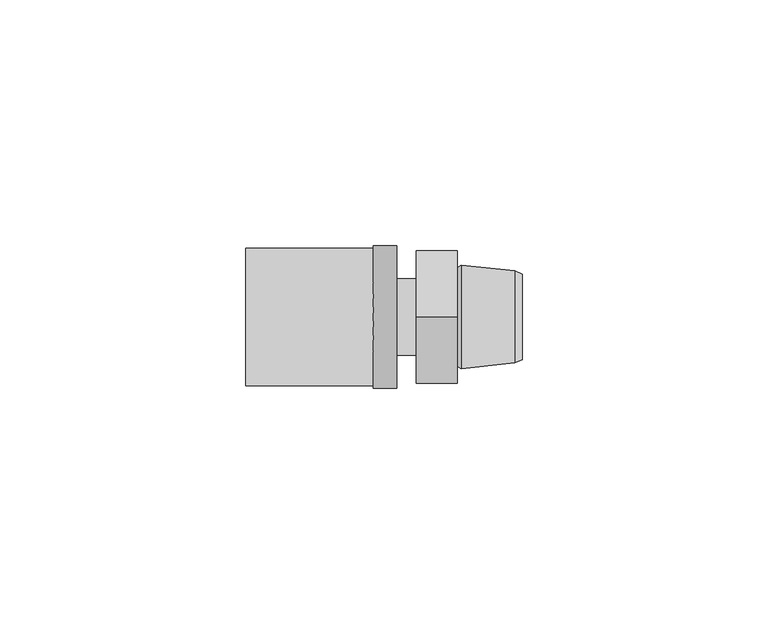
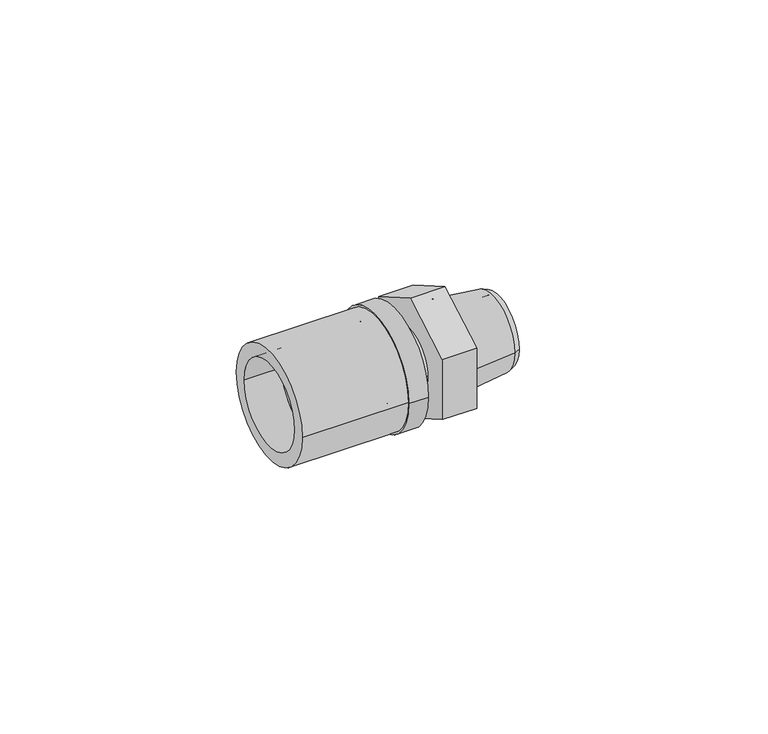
"""IFC4 building model written with IfcOpenShell, lengths in millimetres: pipe fitting geometry, FASTLOC_Adapter_RX+, with external thread : FSL A C external EX+ AT."""

from ifc_helpers import new_model, si_unit, point, frame, origin, origin_2d, place, context, project, spatial, polyline, circle_curve, trimmed, segment, composite_curve, outline, extrude, source, transform, mapped, element, save
from ifc_brep_helpers import plane_surface, cylinder_surface, revolved_surface, advanced_brep


def pipe_fitting_bbd05bdc(model_context):
    return source(origin(), model_context, "Body", "SolidModel", [
        extrude(outline(composite_curve([segment(trimmed(circle_curve(origin_2d(), 14.0), [point((14.0, 0.0))], [point((-14.0, 0.0))], False, "CARTESIAN"), True, "CONTINUOUS"), segment(trimmed(circle_curve(origin_2d(), 14.0), [point((-14.0, 0.0))], [point((14.0, 0.0))], False, "CARTESIAN"), True, "CONTINUOUS")], self_intersect=False), holes=[composite_curve([segment(trimmed(circle_curve(origin_2d(), 10.7), [point((10.7, 0.0))], [point((-10.7, 0.0))], True, "CARTESIAN"), True, "CONTINUOUS"), segment(trimmed(circle_curve(origin_2d(), 10.7), [point((-10.7, 0.0))], [point((10.7, 0.0))], True, "CARTESIAN"), True, "CONTINUOUS")], self_intersect=False)]), frame((-34.7, 0.0, 0.0), z_axis=(1.0, 0.0, 0.0), x_axis=(0.0, 1.0, 0.0)), (0.0, 0.0, 1.0), 26.0),
        advanced_brep(
        [(-8.7, -14.5, 0.0), (-8.7, 14.5, 0.0), (-4.0, 14.5, 0.0), (-4.0, -14.5, 0.0), (-25.7, -11.85, 0.0), (-25.7, 11.85, 0.0), (-8.7, 11.85, 0.0), (-8.7, -11.85, 0.0), (-4.0, -10.15, 0.0), (-4.0, 10.15, 0.0), (-25.7, 10.15, 0.0), (-25.7, -10.15, 0.0)],
        [
            (0, 1, circle_curve(frame((-8.7, 0.0, 0.0), z_axis=(1.0, 0.0, 0.0), x_axis=(0.0, 1.0, 0.0)), 14.5)),
            (1, 2),
            (2, 3, circle_curve(frame((-4.0, 0.0, 0.0), z_axis=(-1.0, 0.0, 0.0), x_axis=(0.0, 1.0, 0.0)), 14.5)),
            (3, 0),
            (4, 5, circle_curve(frame((-25.7, 0.0, 0.0), z_axis=(1.0, 0.0, 0.0), x_axis=(0.0, 1.0, 0.0)), 11.85)),
            (5, 6),
            (6, 7, circle_curve(frame((-8.7, 0.0, 0.0), z_axis=(-1.0, 0.0, 0.0), x_axis=(0.0, 1.0, 0.0)), 11.85)),
            (7, 4),
            (8, 9, circle_curve(frame((-4.0, 0.0, 0.0), z_axis=(1.0, 0.0, 0.0), x_axis=(0.0, 1.0, 0.0)), 10.15)),
            (9, 10),
            (10, 11, circle_curve(frame((-25.7, 0.0, 0.0), z_axis=(-1.0, 0.0, 0.0), x_axis=(0.0, 1.0, 0.0)), 10.15)),
            (11, 8),
            (1, 0, circle_curve(frame((-8.7, 0.0, 0.0), z_axis=(1.0, 0.0, 0.0), x_axis=(0.0, -1.0, 0.0)), 14.5)),
            (3, 2, circle_curve(frame((-4.0, 0.0, 0.0), z_axis=(-1.0, 0.0, 0.0), x_axis=(0.0, -1.0, 0.0)), 14.5)),
            (6, 7, circle_curve(frame((-8.7, 0.0, 0.0), z_axis=(1.0, 0.0, 0.0), x_axis=(0.0, -1.0, 0.0)), 11.85)),
            (5, 4, circle_curve(frame((-25.7, 0.0, 0.0), z_axis=(1.0, 0.0, 0.0), x_axis=(0.0, -1.0, 0.0)), 11.85)),
            (10, 11, circle_curve(frame((-25.7, 0.0, 0.0), z_axis=(1.0, 0.0, 0.0), x_axis=(0.0, -1.0, 0.0)), 10.15)),
            (9, 8, circle_curve(frame((-4.0, 0.0, 0.0), z_axis=(1.0, 0.0, 0.0), x_axis=(0.0, -1.0, 0.0)), 10.15)),
        ],
        [
            cylinder_surface(frame((-4.0, 0.0, 0.0), z_axis=(-1.0, 0.0, 0.0), x_axis=(0.0, 1.0, 0.0)), 14.5),
            cylinder_surface(frame((-4.0, 0.0, 0.0), z_axis=(-1.0, 0.0, 0.0), x_axis=(0.0, 1.0, 0.0)), 11.85),
            revolved_surface(polyline([(-25.7, 10.15, 0.0), (-4.0, 10.15, 0.0)]), (-4.0, 0.0, 0.0), (-1.0, 0.0, 0.0)),
            cylinder_surface(frame((-4.0, 0.0, 0.0), z_axis=(-1.0, 0.0, 0.0), x_axis=(0.0, -1.0, 0.0)), 14.5),
            plane_surface(frame((-8.7, 0.0, 0.0), z_axis=(-1.0, 0.0, 0.0), x_axis=(0.0, -1.0, 0.0))),
            cylinder_surface(frame((-4.0, 0.0, 0.0), z_axis=(-1.0, 0.0, 0.0), x_axis=(0.0, -1.0, 0.0)), 11.85),
            plane_surface(frame((-25.7, 0.0, 0.0), z_axis=(-1.0, 0.0, 0.0), x_axis=(0.0, -1.0, 0.0))),
            revolved_surface(polyline([(-25.7, -10.15, 0.0), (-4.0, -10.15, 0.0)]), (-4.0, 0.0, 0.0), (-1.0, 0.0, 0.0)),
            plane_surface(frame((-4.0, 0.0, 0.0), z_axis=(1.0, 0.0, 0.0), x_axis=(0.0, -1.0, 0.0))),
        ],
        [
            (0, [[1, 2, 3, 4]]),
            (1, [[5, 6, 7, 8]]),
            (2, [[9, 10, 11, 12]]),
            (3, [[13, -4, 14, -2]]),
            (4, [[-13, -1], [15, -7]]),
            (5, [[16, -8, -15, -6]]),
            (6, [[-16, -5], [17, -11]]),
            (7, [[18, -12, -17, -10]]),
            (8, [[-14, -3], [-18, -9]]),
        ],
    ),
        advanced_brep(
        [(9.5032803, 7.5, 0.0), (9.5032803, -7.5, 0.0), (21.6, -7.5, 0.0), (21.6, 7.5, 0.0), (8.4, 6.3967197, 0.0), (8.4, -6.3967197, 0.0), (9.1406902, 10.55, 0.0), (9.1406902, -10.55, 0.0), (8.4, -10.0, 0.0), (8.4, 10.0, 0.0), (20.1000007, 9.35, 0.0), (20.1000007, -9.35, 0.0), (21.6, 8.725, 0.0), (21.6, -8.725, 0.0)],
        [
            (0, 1, circle_curve(frame((9.5032803, 0.0, 0.0), z_axis=(-1.0, 0.0, 0.0), x_axis=(0.0, -1.0, 0.0)), 7.5)),
            (1, 2),
            (2, 3, circle_curve(frame((21.6, 0.0, 0.0), z_axis=(1.0, 0.0, 0.0), x_axis=(0.0, -1.0, 0.0)), 7.5)),
            (3, 0),
            (4, 5, circle_curve(frame((8.4, 0.0, 0.0), z_axis=(-1.0, 0.0, 0.0), x_axis=(0.0, -1.0, 0.0)), 6.3967197)),
            (5, 1),
            (0, 4),
            (6, 7, circle_curve(frame((9.1406902, 0.0, 0.0), z_axis=(-1.0, 0.0, 0.0), x_axis=(0.0, -1.0, 0.0)), 10.55)),
            (7, 8),
            (8, 9, circle_curve(frame((8.4, 0.0, 0.0), z_axis=(1.0, 0.0, 0.0), x_axis=(0.0, -1.0, 0.0)), 10.0)),
            (9, 6),
            (10, 11, circle_curve(frame((20.1000007, 0.0, 0.0), z_axis=(-1.0, 0.0, 0.0), x_axis=(0.0, -1.0, 0.0)), 9.35)),
            (11, 7),
            (6, 10),
            (12, 13, circle_curve(frame((21.6, 0.0, 0.0), z_axis=(-1.0, 0.0, 0.0), x_axis=(0.0, -1.0, 0.0)), 8.725)),
            (13, 11),
            (10, 12),
            (1, 0, circle_curve(frame((9.5032803, 0.0, 0.0), z_axis=(-1.0, 0.0, 0.0), x_axis=(0.0, 1.0, 0.0)), 7.5)),
            (3, 2, circle_curve(frame((21.6, 0.0, 0.0), z_axis=(1.0, 0.0, 0.0), x_axis=(0.0, 1.0, 0.0)), 7.5)),
            (5, 4, circle_curve(frame((8.4, 0.0, 0.0), z_axis=(-1.0, 0.0, 0.0), x_axis=(0.0, 1.0, 0.0)), 6.3967197)),
            (8, 9, circle_curve(frame((8.4, 0.0, 0.0), z_axis=(-1.0, 0.0, 0.0), x_axis=(0.0, 1.0, 0.0)), 10.0)),
            (7, 6, circle_curve(frame((9.1406902, 0.0, 0.0), z_axis=(-1.0, 0.0, 0.0), x_axis=(0.0, 1.0, 0.0)), 10.55)),
            (11, 10, circle_curve(frame((20.1000007, 0.0, 0.0), z_axis=(-1.0, 0.0, 0.0), x_axis=(0.0, 1.0, 0.0)), 9.35)),
            (13, 12, circle_curve(frame((21.6, 0.0, 0.0), z_axis=(-1.0, 0.0, 0.0), x_axis=(0.0, 1.0, 0.0)), 8.725)),
        ],
        [
            revolved_surface(polyline([(21.6, -7.5, 0.0), (9.5032803, -7.5, 0.0)]), (0.0, 0.0, 0.0), (1.0, 0.0, 0.0)),
            revolved_surface(polyline([(9.5032803, -7.5, 0.0), (8.4, -6.3967197, 0.0)]), (0.0, 0.0, 0.0), (1.0, 0.0, 0.0)),
            revolved_surface(polyline([(8.4, -10.0, 0.0), (9.1406902, -10.55, 0.0)]), (0.0, 0.0, 0.0), (1.0, 0.0, 0.0)),
            revolved_surface(polyline([(9.1406902, -10.55, 0.0), (20.1000007, -9.35, 0.0)]), (0.0, 0.0, 0.0), (1.0, 0.0, 0.0)),
            revolved_surface(polyline([(20.1000007, -9.35, 0.0), (21.6, -8.725, 0.0)]), (0.0, 0.0, 0.0), (1.0, 0.0, 0.0)),
            revolved_surface(polyline([(21.6, 7.5, 0.0), (9.5032803, 7.5, 0.0)]), (0.0, 0.0, 0.0), (1.0, 0.0, 0.0)),
            revolved_surface(polyline([(9.5032803, 7.5, 0.0), (8.4, 6.3967197, 0.0)]), (0.0, 0.0, 0.0), (1.0, 0.0, 0.0)),
            plane_surface(frame((8.4, 0.0, 0.0), z_axis=(-1.0, 0.0, 0.0), x_axis=(0.0, 1.0, 0.0))),
            revolved_surface(polyline([(8.4, 10.0, 0.0), (9.1406902, 10.55, 0.0)]), (0.0, 0.0, 0.0), (1.0, 0.0, 0.0)),
            revolved_surface(polyline([(9.1406902, 10.55, 0.0), (20.1000007, 9.35, 0.0)]), (0.0, 0.0, 0.0), (1.0, 0.0, 0.0)),
            revolved_surface(polyline([(20.1000007, 9.35, 0.0), (21.6, 8.725, 0.0)]), (0.0, 0.0, 0.0), (1.0, 0.0, 0.0)),
            plane_surface(frame((21.6, 0.0, 0.0), z_axis=(1.0, 0.0, 0.0), x_axis=(0.0, 1.0, 0.0))),
        ],
        [
            (0, [[1, 2, 3, 4]]),
            (1, [[5, 6, -1, 7]]),
            (2, [[8, 9, 10, 11]]),
            (3, [[12, 13, -8, 14]]),
            (4, [[15, 16, -12, 17]]),
            (5, [[18, -4, 19, -2]]),
            (6, [[20, -7, -18, -6]]),
            (7, [[21, -10], [-20, -5]]),
            (8, [[22, -11, -21, -9]]),
            (9, [[23, -14, -22, -13]]),
            (10, [[24, -17, -23, -16]]),
            (11, [[-24, -15], [-19, -3]]),
        ],
    ),
        extrude(outline(polyline([(-13.5, 7.7942286), (0.0, 15.5884573), (13.5, 7.7942286), (13.5, -7.7942286), (0.0, -15.5884573), (-13.5, -7.7942286), (-13.5, 7.7942286)])), frame((0.0, 0.0, 0.0), z_axis=(1.0, 0.0, 0.0), x_axis=(0.0, 1.0, 0.0)), (0.0, 0.0, 1.0), 8.4),
        advanced_brep(
        [(-26.0, 5.75, 0.0), (-26.0, -5.75, 0.0), (0.0, -5.75, 0.0), (0.0, 5.75, 0.0), (0.0, 7.75, 0.0), (0.0, -7.75, 0.0), (-6.0, -7.75, 0.0), (-6.0, 7.75, 0.0), (-6.0, 8.8, 0.0), (-6.0, -8.8, 0.0), (-8.7, -8.8, 0.0), (-8.7, 8.8, 0.0), (-8.7, 7.75, 0.0), (-8.7, -7.75, 0.0), (-26.0, -7.75, 0.0), (-26.0, 7.75, 0.0)],
        [
            (0, 1, circle_curve(frame((-26.0, 0.0, 0.0), z_axis=(-1.0, 0.0, 0.0), x_axis=(0.0, -1.0, 0.0)), 5.75)),
            (1, 2),
            (2, 3, circle_curve(frame((0.0, 0.0, 0.0), z_axis=(1.0, 0.0, 0.0), x_axis=(0.0, -1.0, 0.0)), 5.75)),
            (3, 0),
            (4, 5, circle_curve(frame((0.0, 0.0, 0.0), z_axis=(-1.0, 0.0, 0.0), x_axis=(0.0, -1.0, 0.0)), 7.75)),
            (5, 6),
            (6, 7, circle_curve(frame((-6.0, 0.0, 0.0), z_axis=(1.0, 0.0, 0.0), x_axis=(0.0, -1.0, 0.0)), 7.75)),
            (7, 4),
            (8, 9, circle_curve(frame((-6.0, 0.0, 0.0), z_axis=(-1.0, 0.0, 0.0), x_axis=(0.0, -1.0, 0.0)), 8.8)),
            (9, 10),
            (10, 11, circle_curve(frame((-8.7, 0.0, 0.0), z_axis=(1.0, 0.0, 0.0), x_axis=(0.0, -1.0, 0.0)), 8.8)),
            (11, 8),
            (12, 13, circle_curve(frame((-8.7, 0.0, 0.0), z_axis=(-1.0, 0.0, 0.0), x_axis=(0.0, -1.0, 0.0)), 7.75)),
            (13, 14),
            (14, 15, circle_curve(frame((-26.0, 0.0, 0.0), z_axis=(1.0, 0.0, 0.0), x_axis=(0.0, -1.0, 0.0)), 7.75)),
            (15, 12),
            (1, 0, circle_curve(frame((-26.0, 0.0, 0.0), z_axis=(-1.0, 0.0, 0.0), x_axis=(0.0, 1.0, 0.0)), 5.75)),
            (3, 2, circle_curve(frame((0.0, 0.0, 0.0), z_axis=(1.0, 0.0, 0.0), x_axis=(0.0, 1.0, 0.0)), 5.75)),
            (4, 5, circle_curve(frame((0.0, 0.0, 0.0), z_axis=(1.0, 0.0, 0.0), x_axis=(0.0, 1.0, 0.0)), 7.75)),
            (7, 6, circle_curve(frame((-6.0, 0.0, 0.0), z_axis=(1.0, 0.0, 0.0), x_axis=(0.0, 1.0, 0.0)), 7.75)),
            (8, 9, circle_curve(frame((-6.0, 0.0, 0.0), z_axis=(1.0, 0.0, 0.0), x_axis=(0.0, 1.0, 0.0)), 8.8)),
            (11, 10, circle_curve(frame((-8.7, 0.0, 0.0), z_axis=(1.0, 0.0, 0.0), x_axis=(0.0, 1.0, 0.0)), 8.8)),
            (12, 13, circle_curve(frame((-8.7, 0.0, 0.0), z_axis=(1.0, 0.0, 0.0), x_axis=(0.0, 1.0, 0.0)), 7.75)),
            (15, 14, circle_curve(frame((-26.0, 0.0, 0.0), z_axis=(1.0, 0.0, 0.0), x_axis=(0.0, 1.0, 0.0)), 7.75)),
        ],
        [
            revolved_surface(polyline([(0.0, -5.75, 0.0), (-26.0, -5.75, 0.0)]), (0.0, 0.0, 0.0), (1.0, 0.0, 0.0)),
            cylinder_surface(frame((0.0, 0.0, 0.0), z_axis=(1.0, 0.0, 0.0), x_axis=(0.0, -1.0, 0.0)), 7.75),
            cylinder_surface(frame((0.0, 0.0, 0.0), z_axis=(1.0, 0.0, 0.0), x_axis=(0.0, -1.0, 0.0)), 8.8),
            revolved_surface(polyline([(0.0, 5.75, 0.0), (-26.0, 5.75, 0.0)]), (0.0, 0.0, 0.0), (1.0, 0.0, 0.0)),
            plane_surface(frame((0.0, 0.0, 0.0), z_axis=(1.0, 0.0, 0.0), x_axis=(0.0, 1.0, 0.0))),
            cylinder_surface(frame((0.0, 0.0, 0.0), z_axis=(1.0, 0.0, 0.0), x_axis=(0.0, 1.0, 0.0)), 7.75),
            plane_surface(frame((-6.0, 0.0, 0.0), z_axis=(1.0, 0.0, 0.0), x_axis=(0.0, 1.0, 0.0))),
            cylinder_surface(frame((0.0, 0.0, 0.0), z_axis=(1.0, 0.0, 0.0), x_axis=(0.0, 1.0, 0.0)), 8.8),
            plane_surface(frame((-8.7, 0.0, 0.0), z_axis=(-1.0, 0.0, 0.0), x_axis=(0.0, 1.0, 0.0))),
            plane_surface(frame((-26.0, 0.0, 0.0), z_axis=(-1.0, 0.0, 0.0), x_axis=(0.0, 1.0, 0.0))),
        ],
        [
            (0, [[1, 2, 3, 4]]),
            (1, [[5, 6, 7, 8]]),
            (2, [[9, 10, 11, 12]]),
            (1, [[13, 14, 15, 16]]),
            (3, [[17, -4, 18, -2]]),
            (4, [[19, -5], [-18, -3]]),
            (5, [[-19, -8, 20, -6]]),
            (6, [[21, -9], [-20, -7]]),
            (7, [[-21, -12, 22, -10]]),
            (8, [[-22, -11], [23, -13]]),
            (5, [[-23, -16, 24, -14]]),
            (9, [[-24, -15], [-17, -1]]),
        ],
    ),
    ])


if __name__ == "__main__":
    model = new_model("IFC4")
    model_context = context("Model", 3, world=origin())
    ifc_project = project(units=[si_unit("LENGTHUNIT", "METRE", prefix="MILLI")], contexts=[model_context])
    site = spatial("IfcSite", under=ifc_project)
    building = spatial("IfcBuilding", under=site)
    placement = place(None, origin())
    pipe_fitting_shape = pipe_fitting_bbd05bdc(model_context)
    element("IfcPipeFitting", 1, ObjectType="FASTLOC_Adapter_RX+, with external thread : FSL A C external EX+ AT", at=placement, inside=building, context=model_context, shape_type="MappedRepresentation", body=[
        mapped(pipe_fitting_shape, transform((0.0, 0.0, 0.0), x_axis=(1.0, 0.0, 0.0), y_axis=(0.0, 1.0, 0.0), z_axis=(0.0, 0.0, 1.0))),
    ])
    save(model, "model.ifc")
